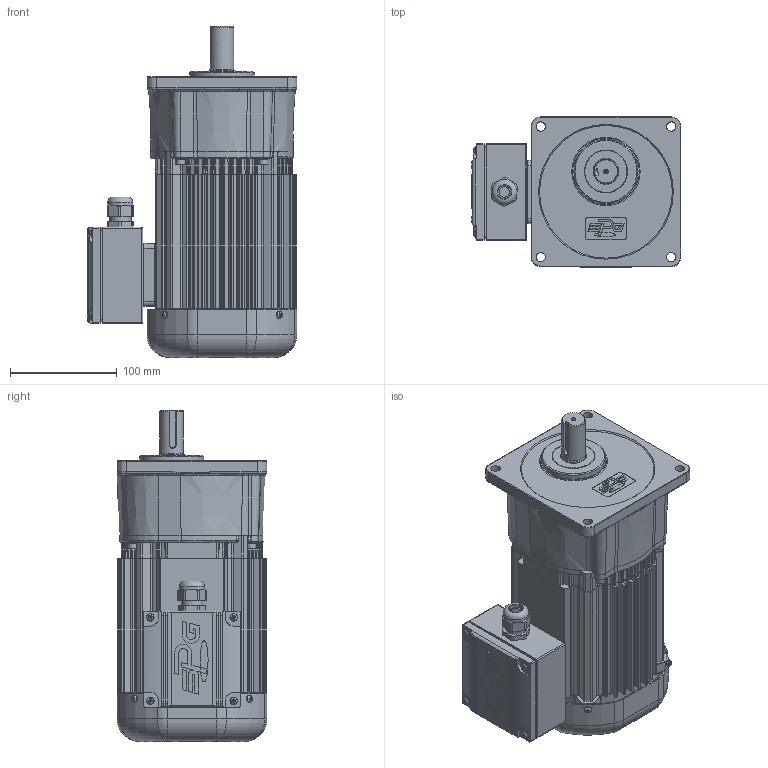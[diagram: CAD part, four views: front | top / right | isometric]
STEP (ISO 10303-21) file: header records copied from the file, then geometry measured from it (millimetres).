
FILE_DESCRIPTION(/* description */ (''),/* implementation_level */ '2;1');
FILE_NAME(/* name */ 'Z:\동력 3D 파일\PAK22_0.4kW_3D.stp',/* time_stamp */ '2021-11-09T08:39:00+09:00',/* author */ ('jaebok'),/* organization */ (''),/* preprocessor_version */ 'ST-DEVELOPER v18.1',/* originating_system */ 'Autodesk Inventor 2022',/* authorisation */ '');
FILE_SCHEMA (('AUTOMOTIVE_DESIGN { 1 0 10303 214 3 1 1 }'));
Products named in the file (1): 부품7
Bounding box: 196 x 140 x 309.5 mm (x, y, z)
Volume: 1351175.5 mm3; surface area: 492445 mm2
Topology: 2 solids, 35 shells, 3025 faces, 7705 edges, 4674 vertices
Faces by surface type: plane 967, cylinder 853, bspline 666, torus 301, cone 162, sphere 76
Full cylindrical faces by diameter (mm): 2 x1, 3.242 x5, 3.25 x1, 3.5 x4, 3.6 x4, 4 x21, 4.2 x4, 4.917 x4, 5 x19, 5.386 x4, 5.5 x4, 6 x9, 7 x12, 8 x5, 8.5 x4, 8.6 x4, 10 x1, 12.5 x1, 14 x1, 15 x1, 15.5 x1, 18 x1, 20 x2, 21 x1, 22 x2, 23 x1, 23.6 x2, 24 x1, 25 x2, 30 x3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
Entity records: 117504 total; most frequent: CARTESIAN_POINT 45173, ORIENTED_EDGE 15096, DIRECTION 13707, EDGE_CURVE 7548, AXIS2_PLACEMENT_3D 5542, VERTEX_POINT 4674, EDGE_LOOP 3205, CIRCLE 3087
